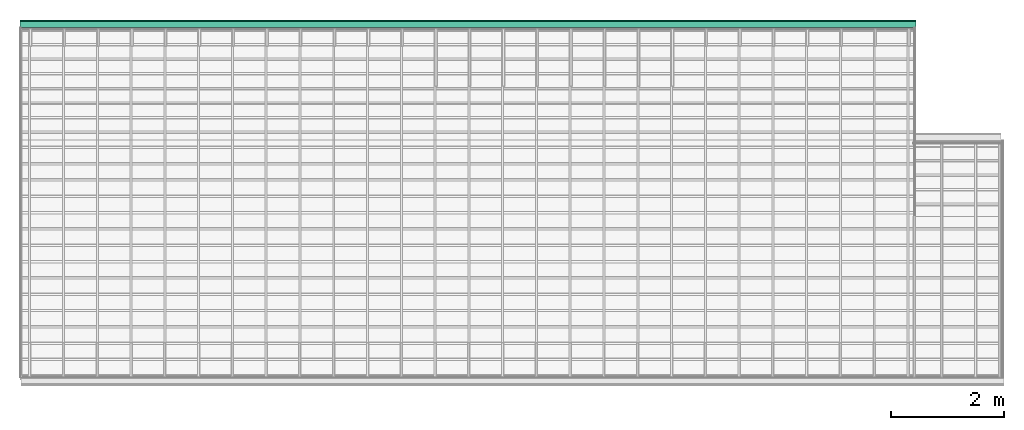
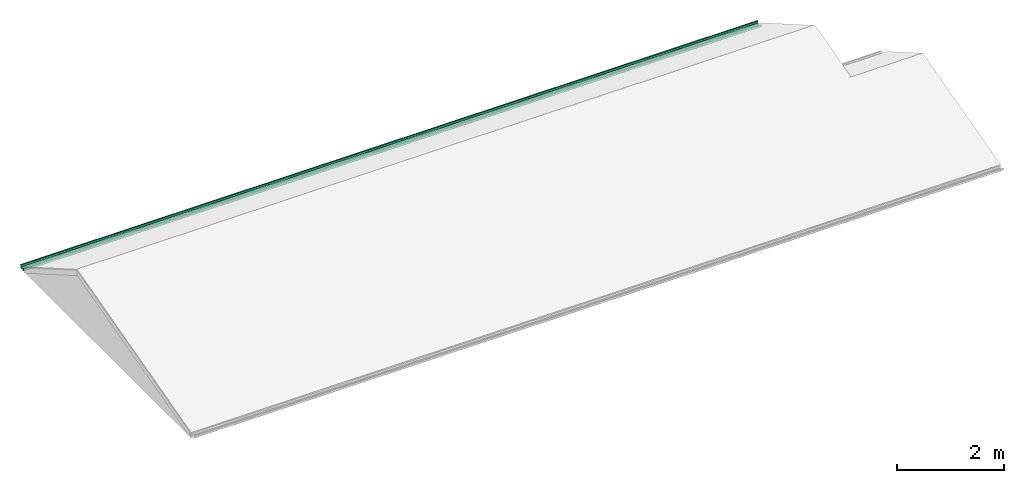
# One storey, part 10 of 12: 1 distribution element.
"""IFC2X3 building model written with IfcOpenShell, lengths in millimetres."""

from ifc_helpers import new_model, entity, si_unit, converted_unit, money_unit, direction, frame, origin_with_axes, place, context, subcontext, project, spatial, open_shell, surface_model, source, transform, mapped, material, type_object, element, save


model = new_model("IFC2X3")

# Units and contexts
model_context = context("Model", 3, precision=1e-05, world=origin_with_axes(), true_north=direction((0.0, 1.0)))
body_context = subcontext(model_context, "Body", "Model", "MODEL_VIEW")
ifc_project = project(units=[si_unit("LENGTHUNIT", "METRE", prefix="MILLI"), si_unit("AREAUNIT", "SQUARE_METRE"), si_unit("VOLUMEUNIT", "CUBIC_METRE"), converted_unit("PLANEANGLEUNIT", "DEGREE", entity("IfcPlaneAngleMeasure", 0.0174532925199), si_unit("PLANEANGLEUNIT", "RADIAN"), dimensions=[0, 0, 0, 0, 0, 0, 0]), si_unit("SOLIDANGLEUNIT", "STERADIAN"), money_unit("AUD"), si_unit("TIMEUNIT", "SECOND"), si_unit("MASSUNIT", "GRAM"), si_unit("THERMODYNAMICTEMPERATUREUNIT", "DEGREE_CELSIUS"), si_unit("LUMINOUSINTENSITYUNIT", "LUMEN")], contexts=[model_context])

# Site, building, storey
site_placement = place(None, origin_with_axes())
site = spatial("IfcSite", under=ifc_project, at=site_placement, Name="Lot 1. East Hills", CompositionType="ELEMENT")
building_placement = place(site_placement, origin_with_axes())
building = spatial("IfcBuilding", under=site, at=building_placement, Name="Proposed Units 7 & 8", CompositionType="ELEMENT")
storey_placement = place(building_placement, frame((0.0, 0.0, 8395.0), z_axis=(0.0, 0.0, 1.0), x_axis=(1.0, 0.0, 0.0)))
storey = spatial("IfcBuildingStorey", under=building, at=storey_placement, Name="Roof", CompositionType="ELEMENT", Elevation=8395.0)

# Distribution element
ifc_material = material(Name="50 %")
distribution_element_type = type_object("IfcDistributionElementType", Name="gutter")
shared_shape = source(origin_with_axes(), body_context, "Body", "SurfaceModel", [
    surface_model("IfcShellBasedSurfaceModel", [(-6.05430527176, 0.0, 67.9116959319), (-6.05430527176, 15914.6034593, 67.9116959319), (-6.004269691, 15914.6034593, 67.9116959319), (-6.004269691, 0.0, 67.9116959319), (-6.004269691, 0.0, 67.9116959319), (-6.004269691, 15914.6034593, 67.9116959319), (-6.91291583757, 15914.6034593, 67.8596961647), (-6.91291583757, 0.0, 67.8596961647), (-6.91291583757, 0.0, 67.8596961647), (-6.91291583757, 15914.6034593, 67.8596961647), (-7.79954632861, 15914.6034593, 67.6606970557), (-7.79954632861, 0.0, 67.6606970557), (-7.79954632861, 0.0, 67.6606970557), (-7.79954632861, 15914.6034593, 67.6606970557), (-8.64214550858, 15914.6034593, 67.3176985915), (-8.64214550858, 0.0, 67.3176985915), (-8.64214550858, 0.0, 67.3176985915), (-8.64214550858, 15914.6034593, 67.3176985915), (-9.41669629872, 15914.6034593, 66.8407007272), (-9.41669629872, 0.0, 66.8407007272), (-9.41669629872, 0.0, 66.8407007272), (-9.41669629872, 15914.6034593, 66.8407007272), (-10.1021837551, 15914.6034593, 66.2427034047), (-10.1021837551, 0.0, 66.2427034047), (-10.1021837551, 0.0, 66.2427034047), (-10.1021837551, 15914.6034593, 66.2427034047), (-10.6805950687, 15914.6034593, 65.5407065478), (-10.6805950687, 0.0, 65.5407065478), (-10.6805950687, 0.0, 65.5407065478), (-10.6805950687, 15914.6034593, 65.5407065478), (-11.134918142, 15914.6034593, 64.752710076), (-11.134918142, 0.0, 64.752710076), (-11.134918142, 0.0, 64.752710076), (-11.134918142, 15914.6034593, 64.752710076), (-11.4531444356, 15914.6034593, 63.9017138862), (-11.4531444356, 0.0, 63.9017138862), (-11.4531444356, 0.0, 63.9017138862), (-11.4531444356, 15914.6034593, 63.9017138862), (-11.4531444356, 15914.6034593, 37.9998298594), (-11.4531444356, 0.0, 37.9998298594), (-11.4531444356, 0.0, 37.9998298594), (-11.4531444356, 15914.6034593, 37.9998298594), (-12.0305550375, 15914.6034593, 31.4008594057), (-12.0305550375, 0.0, 31.4008594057), (-12.0305550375, 0.0, 31.4008594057), (-12.0305550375, 15914.6034593, 31.4008594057), (-13.7467754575, 15914.6034593, 25.002888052), (-13.7467754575, 0.0, 25.002888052), (-13.7467754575, 0.0, 25.002888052), (-13.7467754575, 15914.6034593, 25.002888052), (-16.5477672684, 15914.6034593, 18.9999149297), (-16.5477672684, 0.0, 18.9999149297), (-16.5477672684, 0.0, 18.9999149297), (-16.5477672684, 15914.6034593, 18.9999149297), (-20.3494706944, 15914.6034593, 13.573939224), (-20.3494706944, 0.0, 13.573939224), (-20.3494706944, 0.0, 13.573939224), (-20.3494706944, 15914.6034593, 13.573939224), (-25.0368038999, 15914.6034593, 8.88996019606), (-25.0368038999, 0.0, 8.88996019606), (-25.0368038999, 0.0, 8.88996019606), (-25.0368038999, 15914.6034593, 8.88996019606), (-30.4666651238, 15914.6034593, 5.09097720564), (-30.4666651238, 0.0, 5.09097720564), (-30.4666651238, 0.0, 5.09097720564), (-30.4666651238, 15914.6034593, 5.09097720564), (-36.4739369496, 15914.6034593, 2.29198973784), (-36.4739369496, 0.0, 2.29198973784), (-36.4739369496, 0.0, 2.29198973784), (-36.4739369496, 15914.6034593, 2.29198973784), (-42.8764898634, 15914.6034593, 0.576997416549), (-42.8764898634, 0.0, 0.576997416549), (-42.8764898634, 0.0, 0.576997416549), (-42.8764898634, 15914.6034593, 0.576997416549), (-49.4801858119, 15914.6034593, 0.0), (-49.4801858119, 0.0, 0.0), (-49.4801858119, 0.0, 0.0), (-49.4801858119, 15914.6034593, 0.0), (-129.982431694, 15914.6034593, 0.0), (-129.982431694, 0.0, 0.0), (-129.982431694, 0.0, 0.0), (-129.982431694, 15914.6034593, 0.0), (-131.199297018, 15914.6034593, 0.105999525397), (-131.199297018, 0.0, 0.105999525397), (-131.199297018, 0.0, 0.105999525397), (-131.199297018, 15914.6034593, 0.105999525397), (-132.378135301, 15914.6034593, 0.421998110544), (-132.378135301, 0.0, 0.421998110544), (-132.378135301, 0.0, 0.421998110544), (-132.378135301, 15914.6034593, 0.421998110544), (-133.484922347, 15914.6034593, 0.937995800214), (-133.484922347, 0.0, 0.937995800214), (-133.484922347, 0.0, 0.937995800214), (-133.484922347, 15914.6034593, 0.937995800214), (-134.485633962, 15914.6034593, 1.63799266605), (-134.485633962, 0.0, 1.63799266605), (-134.485633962, 0.0, 1.63799266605), (-134.485633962, 15914.6034593, 1.63799266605), (-135.348247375, 15914.6034593, 2.49998880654), (-135.348247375, 0.0, 2.49998880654), (-135.348247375, 0.0, 2.49998880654), (-135.348247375, 15914.6034593, 2.49998880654), (-136.048745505, 15914.6034593, 3.49998432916), (-136.048745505, 0.0, 3.49998432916), (-136.048745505, 0.0, 3.49998432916), (-136.048745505, 15914.6034593, 3.49998432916), (-136.565112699, 15914.6034593, 4.60597937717), (-136.565112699, 0.0, 4.60597937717), (-136.565112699, 0.0, 4.60597937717), (-136.565112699, 15914.6034593, 4.60597937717), (-136.881337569, 15914.6034593, 5.78397410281), (-136.881337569, 0.0, 5.78397410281), (-136.881337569, 0.0, 5.78397410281), (-136.881337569, 15914.6034593, 5.78397410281), (-136.987413, 15914.6034593, 6.99996865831), (-136.987413, 0.0, 6.99996865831), (-136.987413, 0.0, 6.99996865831), (-136.987413, 15914.6034593, 6.99996865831), (-136.990415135, 15914.6034593, 53.0037626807), (-136.990415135, 0.0, 53.0037626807), (-136.990415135, 0.0, 53.0037626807), (-136.990415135, 15914.6034593, 53.0037626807), (-136.965397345, 15914.6034593, 53.0037626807), (-136.965397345, 0.0, 53.0037626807), (-136.965397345, 0.0, 53.0037626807), (-136.965397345, 15914.6034593, 53.0037626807), (-136.618150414, 15914.6034593, 53.0337625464), (-136.618150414, 0.0, 53.0337625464), (-136.618150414, 0.0, 53.0337625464), (-136.618150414, 15914.6034593, 53.0337625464), (-136.281911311, 15914.6034593, 53.1237621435), (-136.281911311, 0.0, 53.1237621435), (-136.281911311, 0.0, 53.1237621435), (-136.281911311, 15914.6034593, 53.1237621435), (-135.965686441, 15914.6034593, 53.2707614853), (-135.965686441, 0.0, 53.2707614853), (-135.965686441, 0.0, 53.2707614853), (-135.965686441, 15914.6034593, 53.2707614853), (-135.680483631, 15914.6034593, 53.4707605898), (-135.680483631, 0.0, 53.4707605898), (-135.680483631, 0.0, 53.4707605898), (-135.680483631, 15914.6034593, 53.4707605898), (-135.433307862, 15914.6034593, 53.7167594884), (-135.433307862, 0.0, 53.7167594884), (-135.433307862, 0.0, 53.7167594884), (-135.433307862, 15914.6034593, 53.7167594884), (-135.23416625, 15914.6034593, 54.0027582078), (-135.23416625, 0.0, 54.0027582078), (-135.23416625, 0.0, 54.0027582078), (-135.23416625, 15914.6034593, 54.0027582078), (-135.086060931, 15914.6034593, 54.3177567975), (-135.086060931, 0.0, 54.3177567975), (-135.086060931, 0.0, 54.3177567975), (-135.086060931, 15914.6034593, 54.3177567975), (-134.995996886, 15914.6034593, 54.6547552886), (-134.995996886, 0.0, 54.6547552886), (-134.995996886, 0.0, 54.6547552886), (-134.995996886, 15914.6034593, 54.6547552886), (-134.965975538, 15914.6034593, 55.0017537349), (-134.965975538, 0.0, 55.0017537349), (-134.965975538, 0.0, 55.0017537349), (-134.965975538, 15914.6034593, 55.0017537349), (-134.995996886, 15914.6034593, 55.3487521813), (-134.995996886, 0.0, 55.3487521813), (-134.995996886, 0.0, 55.3487521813), (-134.995996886, 15914.6034593, 55.3487521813), (-135.086060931, 15914.6034593, 55.6847506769), (-135.086060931, 0.0, 55.6847506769), (-135.086060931, 0.0, 55.6847506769), (-135.086060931, 15914.6034593, 55.6847506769), (-135.23416625, 15914.6034593, 56.000749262), (-135.23416625, 0.0, 56.000749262), (-135.23416625, 0.0, 56.000749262), (-135.23416625, 15914.6034593, 56.000749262), (-135.433307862, 15914.6034593, 56.285747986), (-135.433307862, 0.0, 56.285747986), (-135.433307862, 0.0, 56.285747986), (-135.433307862, 15914.6034593, 56.285747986), (-135.680483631, 15914.6034593, 56.5327468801), (-135.680483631, 0.0, 56.5327468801), (-135.680483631, 0.0, 56.5327468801), (-135.680483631, 15914.6034593, 56.5327468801), (-135.965686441, 15914.6034593, 56.7317459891), (-135.965686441, 0.0, 56.7317459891), (-135.965686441, 0.0, 56.7317459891), (-135.965686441, 15914.6034593, 56.7317459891), (-136.281911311, 15914.6034593, 56.8797453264), (-136.281911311, 0.0, 56.8797453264), (-136.281911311, 0.0, 56.8797453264), (-136.281911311, 15914.6034593, 56.8797453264), (-136.618150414, 15914.6034593, 56.9697449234), (-136.618150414, 0.0, 56.9697449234), (-136.618150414, 0.0, 56.9697449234), (-136.618150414, 15914.6034593, 56.9697449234), (-136.965397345, 15914.6034593, 56.9997447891), (-136.965397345, 0.0, 56.9997447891), (-136.965397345, 0.0, 56.9997447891), (-136.965397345, 15914.6034593, 56.9997447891), (-136.987413, 15914.6034593, 56.9997447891), (-136.987413, 0.0, 56.9997447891), (-136.987413, 0.0, 56.9997447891), (-136.987413, 15914.6034593, 56.9997447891), (-136.991415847, 15914.6034593, 58.805736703), (-136.991415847, 0.0, 58.805736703), (-136.991415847, 0.0, 58.805736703), (-136.991415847, 15914.6034593, 58.805736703), (-136.908356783, 15914.6034593, 58.8047367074), (-136.908356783, 0.0, 58.8047367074), (-136.908356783, 0.0, 58.8047367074), (-136.908356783, 15914.6034593, 58.8047367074), (-136.561109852, 15914.6034593, 58.8347365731), (-136.561109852, 0.0, 58.8347365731), (-136.561109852, 0.0, 58.8347365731), (-136.561109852, 15914.6034593, 58.8347365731), (-136.224870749, 15914.6034593, 58.9247361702), (-136.224870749, 0.0, 58.9247361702), (-136.224870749, 0.0, 58.9247361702), (-136.224870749, 15914.6034593, 58.9247361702), (-135.909646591, 15914.6034593, 59.071735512), (-135.909646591, 0.0, 59.071735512), (-135.909646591, 0.0, 59.071735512), (-135.909646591, 15914.6034593, 59.071735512), (-135.625444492, 15914.6034593, 59.270734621), (-135.625444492, 0.0, 59.270734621), (-135.625444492, 0.0, 59.270734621), (-135.625444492, 15914.6034593, 59.270734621), (-135.379269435, 15914.6034593, 59.5167335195), (-135.379269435, 0.0, 59.5167335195), (-135.379269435, 0.0, 59.5167335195), (-135.379269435, 15914.6034593, 59.5167335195), (-135.179127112, 15914.6034593, 59.8017322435), (-135.179127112, 0.0, 59.8017322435), (-135.179127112, 0.0, 59.8017322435), (-135.179127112, 15914.6034593, 59.8017322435), (-135.032022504, 15914.6034593, 60.1167308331), (-135.032022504, 0.0, 60.1167308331), (-135.032022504, 0.0, 60.1167308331), (-135.032022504, 15914.6034593, 60.1167308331), (-134.941958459, 15914.6034593, 60.4527293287), (-134.941958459, 0.0, 60.4527293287), (-134.941958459, 0.0, 60.4527293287), (-134.941958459, 15914.6034593, 60.4527293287), (-134.91193711, 15914.6034593, 60.7987277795), (-134.91193711, 0.0, 60.7987277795), (-134.91193711, 0.0, 60.7987277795), (-134.91193711, 15914.6034593, 60.7987277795), (-134.941958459, 15914.6034593, 61.1447262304), (-134.941958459, 0.0, 61.1447262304), (-134.941958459, 0.0, 61.1447262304), (-134.941958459, 15914.6034593, 61.1447262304), (-135.032022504, 15914.6034593, 61.480724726), (-135.032022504, 0.0, 61.480724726), (-135.032022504, 0.0, 61.480724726), (-135.032022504, 15914.6034593, 61.480724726), (-135.179127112, 15914.6034593, 61.7957233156), (-135.179127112, 0.0, 61.7957233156), (-135.179127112, 0.0, 61.7957233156), (-135.179127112, 15914.6034593, 61.7957233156), (-135.379269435, 15914.6034593, 62.0807220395), (-135.379269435, 0.0, 62.0807220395), (-135.379269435, 0.0, 62.0807220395), (-135.379269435, 15914.6034593, 62.0807220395), (-135.625444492, 15914.6034593, 62.3267209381), (-135.625444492, 0.0, 62.3267209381), (-135.625444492, 0.0, 62.3267209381), (-135.625444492, 15914.6034593, 62.3267209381), (-135.909646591, 15914.6034593, 62.5257200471), (-135.909646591, 0.0, 62.5257200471), (-135.909646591, 0.0, 62.5257200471), (-135.909646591, 15914.6034593, 62.5257200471), (-136.224870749, 15914.6034593, 62.6727193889), (-136.224870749, 0.0, 62.6727193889), (-136.224870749, 0.0, 62.6727193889), (-136.224870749, 15914.6034593, 62.6727193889), (-136.561109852, 15914.6034593, 62.762718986), (-136.561109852, 0.0, 62.762718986), (-136.561109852, 0.0, 62.762718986), (-136.561109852, 15914.6034593, 62.762718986), (-136.908356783, 15914.6034593, 62.7927188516), (-136.908356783, 0.0, 62.7927188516), (-136.908356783, 0.0, 62.7927188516), (-136.908356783, 15914.6034593, 62.7927188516), (-136.990415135, 15914.6034593, 62.7917188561), (-136.990415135, 0.0, 62.7917188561), (-136.990415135, 0.0, 62.7917188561), (-136.990415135, 15914.6034593, 62.7917188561), (-136.992416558, 15914.6034593, 65.9997044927), (-136.992416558, 0.0, 65.9997044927)], [open_shell([[[0, 1, 2, 3]], [[4, 5, 1, 0]], [[3, 2, 6, 7]], [[8, 9, 5, 4]], [[7, 6, 10, 11]], [[12, 13, 9, 8]], [[11, 10, 14, 15]], [[16, 17, 13, 12]], [[15, 14, 18, 19]], [[20, 21, 17, 16]], [[19, 18, 22, 23]], [[24, 25, 21, 20]], [[23, 22, 26, 27]], [[28, 29, 25, 24]], [[27, 26, 30, 31]], [[32, 33, 29, 28]], [[31, 30, 34, 35]], [[36, 37, 33, 32]], [[35, 34, 38, 39]], [[40, 41, 37, 36]], [[39, 38, 42, 43]], [[44, 45, 41, 40]], [[43, 42, 46, 47]], [[48, 49, 45, 44]], [[47, 46, 50, 51]], [[52, 53, 49, 48]], [[51, 50, 54, 55]], [[56, 57, 53, 52]], [[55, 54, 58, 59]], [[60, 61, 57, 56]], [[59, 58, 62, 63]], [[64, 65, 61, 60]], [[63, 62, 66, 67]], [[68, 69, 65, 64]], [[67, 66, 70, 71]], [[72, 73, 69, 68]], [[71, 70, 74, 75]], [[76, 77, 73, 72]], [[75, 74, 78, 79]], [[80, 81, 77, 76]], [[79, 78, 82, 83]], [[84, 85, 81, 80]], [[83, 82, 86, 87]], [[88, 89, 85, 84]], [[87, 86, 90, 91]], [[92, 93, 89, 88]], [[91, 90, 94, 95]], [[96, 97, 93, 92]], [[95, 94, 98, 99]], [[100, 101, 97, 96]], [[99, 98, 102, 103]], [[104, 105, 101, 100]], [[103, 102, 106, 107]], [[108, 109, 105, 104]], [[107, 106, 110, 111]], [[112, 113, 109, 108]], [[111, 110, 114, 115]], [[116, 117, 113, 112]], [[115, 114, 118, 119]], [[120, 121, 117, 116]], [[119, 118, 122, 123]], [[124, 125, 121, 120]], [[123, 122, 126, 127]], [[128, 129, 125, 124]], [[127, 126, 130, 131]], [[132, 133, 129, 128]], [[131, 130, 134, 135]], [[136, 137, 133, 132]], [[135, 134, 138, 139]], [[140, 141, 137, 136]], [[139, 138, 142, 143]], [[144, 145, 141, 140]], [[143, 142, 146, 147]], [[148, 149, 145, 144]], [[147, 146, 150, 151]], [[152, 153, 149, 148]], [[151, 150, 154, 155]], [[156, 157, 153, 152]], [[155, 154, 158, 159]], [[160, 161, 157, 156]], [[159, 158, 162, 163]], [[164, 165, 161, 160]], [[163, 162, 166, 167]], [[168, 169, 165, 164]], [[167, 166, 170, 171]], [[172, 173, 169, 168]], [[171, 170, 174, 175]], [[176, 177, 173, 172]], [[175, 174, 178, 179]], [[180, 181, 177, 176]], [[179, 178, 182, 183]], [[184, 185, 181, 180]], [[183, 182, 186, 187]], [[188, 189, 185, 184]], [[187, 186, 190, 191]], [[192, 193, 189, 188]], [[191, 190, 194, 195]], [[196, 197, 193, 192]], [[195, 194, 198, 199]], [[200, 201, 197, 196]], [[199, 198, 202, 203]], [[204, 205, 201, 200]], [[203, 202, 206, 207]], [[208, 209, 205, 204]], [[207, 206, 210, 211]], [[212, 213, 209, 208]], [[211, 210, 214, 215]], [[216, 217, 213, 212]], [[215, 214, 218, 219]], [[220, 221, 217, 216]], [[219, 218, 222, 223]], [[224, 225, 221, 220]], [[223, 222, 226, 227]], [[228, 229, 225, 224]], [[227, 226, 230, 231]], [[232, 233, 229, 228]], [[231, 230, 234, 235]], [[236, 237, 233, 232]], [[235, 234, 238, 239]], [[240, 241, 237, 236]], [[239, 238, 242, 243]], [[244, 245, 241, 240]], [[243, 242, 246, 247]], [[248, 249, 245, 244]], [[247, 246, 250, 251]], [[252, 253, 249, 248]], [[251, 250, 254, 255]], [[256, 257, 253, 252]], [[255, 254, 258, 259]], [[260, 261, 257, 256]], [[259, 258, 262, 263]], [[264, 265, 261, 260]], [[263, 262, 266, 267]], [[268, 269, 265, 264]], [[267, 266, 270, 271]], [[272, 273, 269, 268]], [[271, 270, 274, 275]], [[276, 277, 273, 272]], [[275, 274, 278, 279]], [[280, 281, 277, 276]], [[279, 278, 282, 283]], [[284, 285, 281, 280]], [[283, 282, 286, 287]], [[287, 286, 285, 284]]])]),
    surface_model("IfcShellBasedSurfaceModel", [(-12.008539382, 0.0, 73.9116690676), (-12.008539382, 15914.6034593, 73.9116690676), (-11.917474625, 15914.6034593, 74.9536644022), (-11.917474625, 0.0, 74.9536644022), (-11.917474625, 0.0, 74.9536644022), (-11.917474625, 15914.6034593, 74.9536644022), (-11.6462817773, 15914.6034593, 75.96365988), (-11.6462817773, 0.0, 75.96365988), (-11.6462817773, 0.0, 75.96365988), (-11.6462817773, 15914.6034593, 75.96365988), (-11.2039672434, 15914.6034593, 76.9116556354), (-11.2039672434, 0.0, 76.9116556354), (-11.2039672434, 0.0, 76.9116556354), (-11.2039672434, 15914.6034593, 76.9116556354), (-10.6035402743, 15914.6034593, 77.7676518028), (-10.6035402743, 0.0, 77.7676518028), (-10.6035402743, 0.0, 77.7676518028), (-10.6035402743, 15914.6034593, 77.7676518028), (-9.8640143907, 15914.6034593, 78.5076484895), (-9.8640143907, 0.0, 78.5076484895), (-9.8640143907, 0.0, 78.5076484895), (-9.8640143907, 15914.6034593, 78.5076484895), (-9.0064045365, 15914.6034593, 79.1076458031), (-9.0064045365, 0.0, 79.1076458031), (-9.0064045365, 0.0, 79.1076458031), (-9.0064045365, 15914.6034593, 79.1076458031), (-8.05772992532, 15914.6034593, 79.5496438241), (-8.05772992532, 0.0, 79.5496438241), (-8.05772992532, 0.0, 79.5496438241), (-8.05772992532, 15914.6034593, 79.5496438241), (-7.047011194, 15914.6034593, 79.8196426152), (-7.047011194, 0.0, 79.8196426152), (-7.047011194, 0.0, 79.8196426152), (-7.047011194, 15914.6034593, 79.8196426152), (-6.004269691, 15914.6034593, 79.9116422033), (-6.004269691, 0.0, 79.9116422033), (-6.004269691, 0.0, 79.9116422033), (-6.004269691, 15914.6034593, 79.9116422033), (-4.961528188, 15914.6034593, 79.8196426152), (-4.961528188, 0.0, 79.8196426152), (-4.961528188, 0.0, 79.8196426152), (-4.961528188, 15914.6034593, 79.8196426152), (-3.95080945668, 15914.6034593, 79.5496438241), (-3.95080945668, 0.0, 79.5496438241), (-3.95080945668, 0.0, 79.5496438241), (-3.95080945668, 15914.6034593, 79.5496438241), (-3.0021348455, 15914.6034593, 79.1076458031), (-3.0021348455, 0.0, 79.1076458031), (-3.0021348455, 0.0, 79.1076458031), (-3.0021348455, 15914.6034593, 79.1076458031), (-2.1445249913, 15914.6034593, 78.5076484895), (-2.1445249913, 0.0, 78.5076484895), (-2.1445249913, 0.0, 78.5076484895), (-2.1445249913, 15914.6034593, 78.5076484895), (-1.40499910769, 15914.6034593, 77.7676518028), (-1.40499910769, 0.0, 77.7676518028), (-1.40499910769, 0.0, 77.7676518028), (-1.40499910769, 15914.6034593, 77.7676518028), (-0.804572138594, 15914.6034593, 76.9116556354), (-0.804572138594, 0.0, 76.9116556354), (-0.804572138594, 0.0, 76.9116556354), (-0.804572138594, 15914.6034593, 76.9116556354), (-0.36225760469, 15914.6034593, 75.96365988), (-0.36225760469, 0.0, 75.96365988), (-0.36225760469, 0.0, 75.96365988), (-0.36225760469, 15914.6034593, 75.96365988), (-0.0910647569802, 15914.6034593, 74.9536644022), (-0.0910647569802, 0.0, 74.9536644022), (-0.0910647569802, 0.0, 74.9536644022), (-0.0910647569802, 15914.6034593, 74.9536644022), (0.0, 15914.6034593, 73.9116690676), (0.0, 0.0, 73.9116690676), (0.0, 0.0, 73.9116690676), (0.0, 15914.6034593, 73.9116690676), (-0.0910647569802, 15914.6034593, 72.869673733), (-0.0910647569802, 0.0, 72.869673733), (-0.0910647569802, 0.0, 72.869673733), (-0.0910647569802, 15914.6034593, 72.869673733), (-0.36225760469, 15914.6034593, 71.8596782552), (-0.36225760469, 0.0, 71.8596782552), (-0.36225760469, 0.0, 71.8596782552), (-0.36225760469, 15914.6034593, 71.8596782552), (-0.804572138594, 15914.6034593, 70.9116824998), (-0.804572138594, 0.0, 70.9116824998), (-0.804572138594, 0.0, 70.9116824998), (-0.804572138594, 15914.6034593, 70.9116824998), (-1.40499910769, 15914.6034593, 70.0546863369), (-1.40499910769, 0.0, 70.0546863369), (-1.40499910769, 0.0, 70.0546863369), (-1.40499910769, 15914.6034593, 70.0546863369), (-2.1445249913, 15914.6034593, 69.3146896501), (-2.1445249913, 0.0, 69.3146896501), (-2.1445249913, 0.0, 69.3146896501), (-2.1445249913, 15914.6034593, 69.3146896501), (-3.0021348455, 15914.6034593, 68.7146923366), (-3.0021348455, 0.0, 68.7146923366), (-3.0021348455, 0.0, 68.7146923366), (-3.0021348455, 15914.6034593, 68.7146923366), (-3.95080945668, 15914.6034593, 68.2726943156), (-3.95080945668, 0.0, 68.2726943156), (-3.95080945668, 0.0, 68.2726943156), (-3.95080945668, 15914.6034593, 68.2726943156), (-4.961528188, 15914.6034593, 68.0026955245), (-4.961528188, 0.0, 68.0026955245), (-4.961528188, 0.0, 68.0026955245), (-4.961528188, 15914.6034593, 68.0026955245), (-6.004269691, 15914.6034593, 67.9116959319), (-6.004269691, 0.0, 67.9116959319)], [open_shell([[[0, 1, 2, 3]], [[4, 5, 1, 0]], [[3, 2, 6, 7]], [[8, 9, 5, 4]], [[7, 6, 10, 11]], [[12, 13, 9, 8]], [[11, 10, 14, 15]], [[16, 17, 13, 12]], [[15, 14, 18, 19]], [[20, 21, 17, 16]], [[19, 18, 22, 23]], [[24, 25, 21, 20]], [[23, 22, 26, 27]], [[28, 29, 25, 24]], [[27, 26, 30, 31]], [[32, 33, 29, 28]], [[31, 30, 34, 35]], [[36, 37, 33, 32]], [[35, 34, 38, 39]], [[40, 41, 37, 36]], [[39, 38, 42, 43]], [[44, 45, 41, 40]], [[43, 42, 46, 47]], [[48, 49, 45, 44]], [[47, 46, 50, 51]], [[52, 53, 49, 48]], [[51, 50, 54, 55]], [[56, 57, 53, 52]], [[55, 54, 58, 59]], [[60, 61, 57, 56]], [[59, 58, 62, 63]], [[64, 65, 61, 60]], [[63, 62, 66, 67]], [[68, 69, 65, 64]], [[67, 66, 70, 71]], [[72, 73, 69, 68]], [[71, 70, 74, 75]], [[76, 77, 73, 72]], [[75, 74, 78, 79]], [[80, 81, 77, 76]], [[79, 78, 82, 83]], [[84, 85, 81, 80]], [[83, 82, 86, 87]], [[88, 89, 85, 84]], [[87, 86, 90, 91]], [[92, 93, 89, 88]], [[91, 90, 94, 95]], [[96, 97, 93, 92]], [[95, 94, 98, 99]], [[100, 101, 97, 96]], [[99, 98, 102, 103]], [[104, 105, 101, 100]], [[103, 102, 106, 107]], [[107, 106, 105, 104]]])]),
])
distribution_element_placement = place(storey_placement, frame((15880.4467605, 5731.55156318, -162.544740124), z_axis=(0.0, 0.0, 1.0), x_axis=(0.0, 1.0, 0.0)))
element("IfcDistributionElement", 1, at=distribution_element_placement, inside=storey, type_object=distribution_element_type, material=ifc_material, Name="CEL-MOD-G20 - gutter - object -", context=body_context, shape_type="MappedRepresentation", body=[
    mapped(shared_shape, transform((0.0, 0.0, 0.0))),
])

save(model, "model.ifc")
